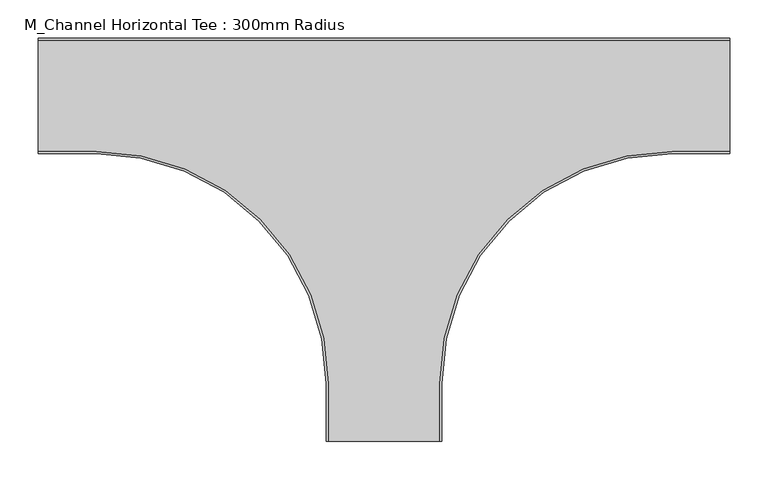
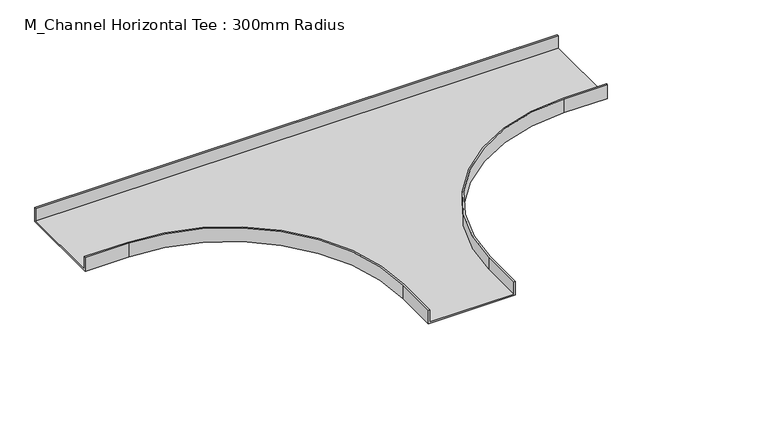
"""IFC4 building model written with IfcOpenShell, lengths in millimetres: cable carrier fitting geometry, M_Channel Horizontal Tee : 300mm Radius."""

from ifc_helpers import new_model, si_unit, frame, origin, place, context, project, spatial, polyline, circle_curve, source, transform, mapped, element, save
from ifc_brep_helpers import plane_surface, cylinder_surface, revolved_surface, advanced_brep


def m_channel_horizontal_tee_300mm_radius_7657e6b0(model_context):
    return source(origin(), model_context, "Body", "AdvancedBrep", [
        advanced_brep(
        [(-75.0, -375.0, 12.5), (-75.0, -450.0, 12.5), (-72.46, -450.0, 12.5), (-72.46, -375.0, 12.5), (-375.0, -72.46, 12.5), (-450.0, -72.46, 12.5), (-450.0, -75.0, 12.5), (-375.0, -75.0, 12.5), (75.0, -375.0, 12.5), (375.0, -75.0, 12.5), (450.0, -75.0, 12.5), (450.0, -72.46, 12.5), (375.0, -72.46, 12.5), (72.46, -375.0, 12.5), (72.46, -450.0, 12.5), (75.0, -450.0, 12.5), (450.0, 75.0, 12.5), (-450.0, 75.0, 12.5), (-450.0, 72.46, 12.5), (450.0, 72.46, 12.5), (-75.0, -375.0, -12.5), (-375.0, -75.0, -12.5), (-450.0, -75.0, -12.5), (-450.0, 75.0, -12.5), (450.0, 75.0, -12.5), (450.0, -75.0, -12.5), (375.0, -75.0, -12.5), (75.0, -375.0, -12.5), (75.0, -450.0, -12.5), (-75.0, -450.0, -12.5), (-75.0, -375.0, -9.96), (72.46, -450.0, -9.96), (-72.46, -450.0, -9.96), (-72.46, -375.0, -9.96), (-375.0, -72.46, -9.96), (-450.0, -72.46, -9.96), (-450.0, 72.46, -9.96), (-375.0, -75.0, -9.96), (75.0, -375.0, -9.96), (375.0, -75.0, -9.96), (450.0, 72.46, -9.96), (450.0, -72.46, -9.96), (375.0, -72.46, -9.96), (72.46, -375.0, -9.96)],
        [
            (0, 1),
            (1, 2),
            (2, 3),
            (3, 4, circle_curve(frame((-375.0, -375.0, 12.5), z_axis=(0.0, 0.0, 1.0), x_axis=(1.0, 0.0, 0.0)), 302.54)),
            (4, 5),
            (5, 6),
            (6, 7),
            (7, 0, circle_curve(frame((-375.0, -375.0, 12.5), z_axis=(0.0, 0.0, -1.0), x_axis=(1.0, 0.0, 0.0)), 300.0)),
            (8, 9, circle_curve(frame((375.0, -375.0, 12.5), z_axis=(0.0, 0.0, -1.0), x_axis=(1.0, 0.0, 0.0)), 300.0)),
            (9, 10),
            (10, 11),
            (11, 12),
            (12, 13, circle_curve(frame((375.0, -375.0, 12.5), z_axis=(0.0, 0.0, 1.0), x_axis=(1.0, 0.0, 0.0)), 302.54)),
            (13, 14),
            (14, 15),
            (15, 8),
            (16, 17),
            (17, 18),
            (18, 19),
            (19, 16),
            (20, 21, circle_curve(frame((-375.0, -375.0, -12.5), z_axis=(0.0, 0.0, 1.0), x_axis=(1.0, 0.0, 0.0)), 300.0)),
            (21, 22),
            (22, 23),
            (23, 24),
            (24, 25),
            (25, 26),
            (26, 27, circle_curve(frame((375.0, -375.0, -12.5), z_axis=(0.0, 0.0, 1.0), x_axis=(1.0, 0.0, 0.0)), 300.0)),
            (27, 28),
            (28, 29),
            (29, 20),
            (29, 1),
            (0, 30),
            (30, 20),
            (28, 15),
            (14, 31),
            (31, 32),
            (32, 2),
            (32, 33),
            (33, 3),
            (33, 34, circle_curve(frame((-375.0, -375.0, -9.96), z_axis=(0.0, 0.0, 1.0), x_axis=(1.0, 0.0, 0.0)), 302.54)),
            (34, 4),
            (34, 35),
            (35, 5),
            (35, 36),
            (36, 18),
            (17, 23),
            (22, 6),
            (21, 37),
            (37, 7),
            (8, 38),
            (38, 27),
            (26, 39),
            (39, 9),
            (25, 10),
            (24, 16),
            (19, 40),
            (40, 41),
            (41, 11),
            (41, 42),
            (42, 12),
            (42, 43, circle_curve(frame((375.0, -375.0, -9.96), z_axis=(0.0, 0.0, 1.0), x_axis=(1.0, 0.0, 0.0)), 302.54)),
            (43, 13),
            (43, 31),
            (36, 40),
        ],
        [
            plane_surface(frame((-75.0, -375.0, 12.5), z_axis=(0.0, 0.0, 1.0), x_axis=(0.0, -1.0, 0.0))),
            plane_surface(frame((-75.0, -375.0, -12.5), z_axis=(0.0, 0.0, -1.0), x_axis=(0.0, 1.0, 0.0))),
            plane_surface(frame((-75.0, -375.0, 12.5), z_axis=(-1.0, 0.0, 0.0), x_axis=(0.0, 0.0, -1.0))),
            plane_surface(frame((-75.0, -450.0, 12.5), z_axis=(0.0, -1.0, 0.0), x_axis=(0.0, 0.0, -1.0))),
            plane_surface(frame((-72.46, -450.0, 12.5), z_axis=(1.0, 0.0, 0.0), x_axis=(0.0, 0.0, -1.0))),
            cylinder_surface(frame((-375.0, -375.0, -12.5), z_axis=(0.0, 0.0, 1.0), x_axis=(1.0, 0.0, 0.0)), 302.54),
            plane_surface(frame((-375.0, -72.46, 12.5), z_axis=(0.0, 1.0, 0.0), x_axis=(0.0, 0.0, -1.0))),
            plane_surface(frame((-450.0, -72.46, 12.5), z_axis=(-1.0, 0.0, 0.0), x_axis=(0.0, 0.0, -1.0))),
            plane_surface(frame((-450.0, -75.0, 12.5), z_axis=(0.0, -1.0, 0.0), x_axis=(0.0, 0.0, -1.0))),
            revolved_surface(polyline([(-75.0, -375.0, -12.5), (-75.0, -375.0, 12.5)]), (-375.0, -375.0, -12.5), (0.0, 0.0, -1.0)),
            revolved_surface(polyline([(675.0, -375.0, -12.5), (675.0, -375.0, 12.5)]), (375.0, -375.0, 0.0), (0.0, 0.0, -1.0)),
            plane_surface(frame((375.0, -75.0, 12.5), z_axis=(0.0, -1.0, 0.0), x_axis=(0.0, 0.0, -1.0))),
            plane_surface(frame((450.0, -75.0, 12.5), z_axis=(1.0, 0.0, 0.0), x_axis=(0.0, 0.0, -1.0))),
            plane_surface(frame((450.0, -72.46, 12.5), z_axis=(0.0, 1.0, 0.0), x_axis=(0.0, 0.0, -1.0))),
            cylinder_surface(frame((375.0, -375.0, 0.0), z_axis=(0.0, 0.0, 1.0), x_axis=(1.0, 0.0, 0.0)), 302.54),
            plane_surface(frame((72.46, -375.0, 12.5), z_axis=(-1.0, 0.0, 0.0), x_axis=(0.0, 0.0, -1.0))),
            plane_surface(frame((75.0, -450.0, 12.5), z_axis=(1.0, 0.0, 0.0), x_axis=(0.0, 0.0, -1.0))),
            plane_surface(frame((450.0, 75.0, 12.5), z_axis=(0.0, 1.0, 0.0), x_axis=(0.0, 0.0, -1.0))),
            plane_surface(frame((-450.0, 72.46, 12.5), z_axis=(0.0, -1.0, 0.0), x_axis=(0.0, 0.0, -1.0))),
            plane_surface(frame((-75.0, -375.0, -9.96), z_axis=(0.0, 0.0, 1.0), x_axis=(0.0, -1.0, 0.0))),
        ],
        [
            (0, [[1, 2, 3, 4, 5, 6, 7, 8]]),
            (0, [[9, 10, 11, 12, 13, 14, 15, 16]]),
            (0, [[17, 18, 19, 20]]),
            (1, [[21, 22, 23, 24, 25, 26, 27, 28, 29, 30]]),
            (2, [[31, -1, 32, 33, -30]]),
            (3, [[-2, -31, -29, 34, -15, 35, 36, 37]]),
            (4, [[-3, -37, 38, 39]]),
            (5, [[-4, -39, 40, 41]]),
            (6, [[-5, -41, 42, 43]]),
            (7, [[-6, -43, 44, 45, -18, 46, -23, 47]]),
            (8, [[-7, -47, -22, 48, 49]]),
            (9, [[-8, -49, -48, -21, -33, -32]]),
            (10, [[-9, 50, 51, -27, 52, 53]]),
            (11, [[54, -10, -53, -52, -26]]),
            (12, [[-11, -54, -25, 55, -20, 56, 57, 58]]),
            (13, [[-12, -58, 59, 60]]),
            (14, [[-13, -60, 61, 62]]),
            (15, [[-14, -62, 63, -35]]),
            (16, [[-16, -34, -28, -51, -50]]),
            (17, [[-46, -17, -55, -24]]),
            (18, [[-19, -45, 64, -56]]),
            (19, [[-36, -63, -61, -59, -57, -64, -44, -42, -40, -38]]),
        ],
    ),
    ])


if __name__ == "__main__":
    model = new_model("IFC4")
    model_context = context("Model", 3, world=origin())
    ifc_project = project(units=[si_unit("LENGTHUNIT", "METRE", prefix="MILLI")], contexts=[model_context])
    site = spatial("IfcSite", under=ifc_project)
    building = spatial("IfcBuilding", under=site)
    placement = place(None, origin())
    m_channel_horizontal_tee_300mm_radius_shape = m_channel_horizontal_tee_300mm_radius_7657e6b0(model_context)
    element("IfcCableCarrierFitting", 1, ObjectType="M_Channel Horizontal Tee : 300mm Radius", at=placement, inside=building, context=model_context, shape_type="MappedRepresentation", body=[
        mapped(m_channel_horizontal_tee_300mm_radius_shape, transform((0.0, 0.0, 0.0), x_axis=(1.0, 0.0, 0.0), y_axis=(0.0, 1.0, 0.0), z_axis=(0.0, 0.0, 1.0))),
    ])
    save(model, "model.ifc")
